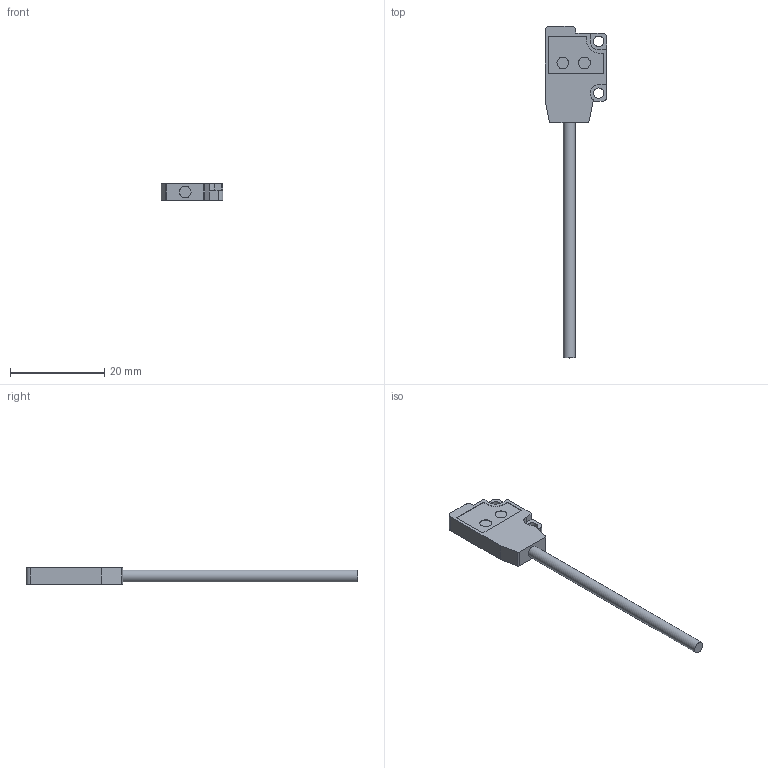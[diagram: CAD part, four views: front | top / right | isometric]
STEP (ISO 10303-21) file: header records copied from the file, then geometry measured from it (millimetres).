
FILE_DESCRIPTION(/* description */ (''),/* implementation_level */ '2;1');
FILE_NAME(/* name */ 'F:\HUAYIFENG\01)HUAYIFENG_宣传文件\01)HUAYIFENG_\X2\5BA34F2065874EF6\X0\_产品资料整合\03)产品3D文档\02)产品3D_光电系列_K12_2019\02-04)LM13系列_3D\LM13_3D_210330\LM13-D30_3D.stp',/* time_stamp */ '2021-03-31T09:37:38+08:00',/* author */ ('fengjiarun'),/* organization */ (''),/* preprocessor_version */ 'ST-DEVELOPER v16.5',/* originating_system */ 'Autodesk Inventor 2017',/* authorisation */ '');
FILE_SCHEMA (('AUTOMOTIVE_DESIGN { 1 0 10303 214 3 1 1 }'));
Length unit declared in the file: millimetre
Products named in the file (1): LM13-D30
Bounding box: 13.1 x 70.5 x 3.6 mm (x, y, z)
Volume: 1053.2 mm3; surface area: 1123 mm2
Topology: 1 solids, 1 shells, 45 faces, 119 edges, 80 vertices
Faces by surface type: plane 27, cylinder 18
Full cylindrical faces by diameter (mm): 2.2 x2, 2.5 x3
Entity records: 1394 total; most frequent: DIRECTION 240, CARTESIAN_POINT 236, ORIENTED_EDGE 224, EDGE_CURVE 112, AXIS2_PLACEMENT_3D 82, VERTEX_POINT 78, LINE 76, VECTOR 76
